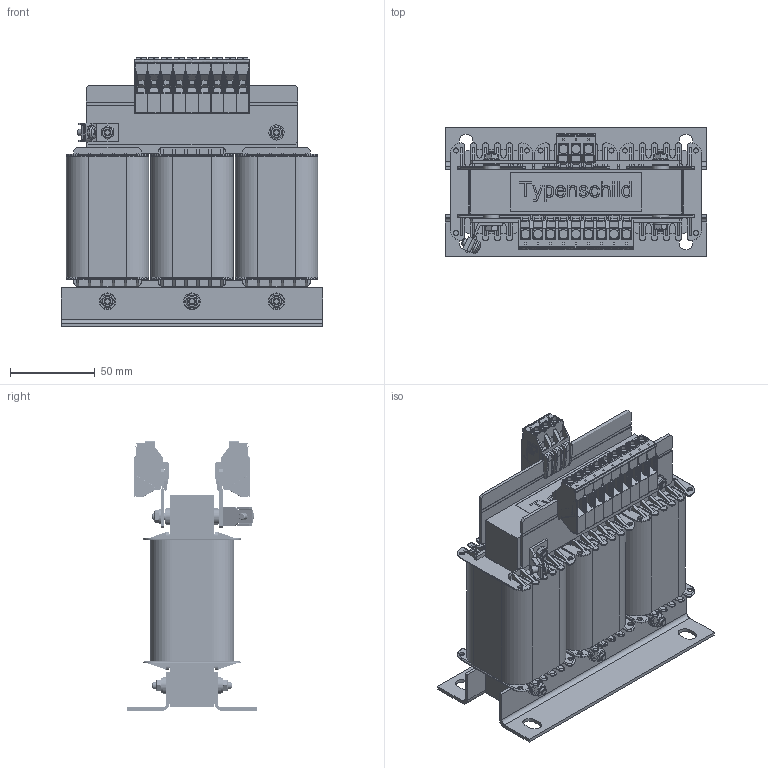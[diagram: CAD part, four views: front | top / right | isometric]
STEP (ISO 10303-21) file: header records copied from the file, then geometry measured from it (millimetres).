
FILE_DESCRIPTION(/* description */ (''),/* implementation_level */ '2;1');
FILE_NAME(/* name */ 'DTZ0,25 18,5-230.stp',/* time_stamp */ '2023-10-05T09:00:33+02:00',/* author */ ('CERNY'),/* organization */ (''),/* preprocessor_version */ 'ST-DEVELOPER v19.2',/* originating_system */ 'Autodesk Inventor 2023',/* authorisation */ '');
FILE_SCHEMA (('AUTOMOTIVE_DESIGN { 1 0 10303 214 3 1 1 }'));
Products named in the file (1): X0001 DTZ 017
Bounding box: 155 x 76.5 x 159.5 mm (x, y, z)
Volume: 744668.2 mm3; surface area: 253236.5 mm2
Topology: 5 solids, 5 shells, 9670 faces, 26227 edges, 16633 vertices
Faces by surface type: plane 6666, cylinder 1912, bspline 552, torus 497, cone 42, sphere 1
Full cylindrical faces by diameter (mm): 3 x24, 4 x12, 4.2 x3, 4.3 x7, 4.5 x1, 5 x1, 5.3 x3, 5.5 x3, 6 x4, 9 x13, 10 x9
Entity records: 326092 total; most frequent: CARTESIAN_POINT 72704, ORIENTED_EDGE 52356, DIRECTION 48765, EDGE_CURVE 26178, LINE 20461, VECTOR 20461, VERTEX_POINT 16633, AXIS2_PLACEMENT_3D 14152
